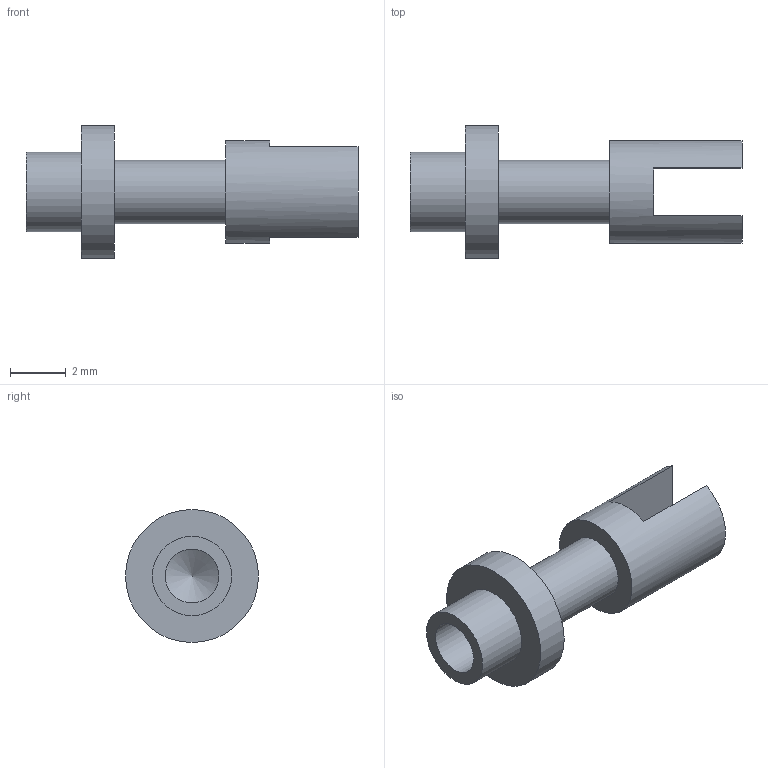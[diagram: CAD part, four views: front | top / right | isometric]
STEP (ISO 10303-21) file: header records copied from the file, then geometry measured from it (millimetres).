
FILE_DESCRIPTION(/* description */ (''),/* implementation_level */ '2;1');
FILE_NAME(/* name */ 'Z:\STEP folder\140-1025-01.ipt.stp',/* time_stamp */ '2016-12-07T10:38:35+00:00',/* author */ ('Paul Karlsons'),/* organization */ (''),/* preprocessor_version */ 'ST-DEVELOPER v15.2',/* originating_system */ 'Autodesk Inventor 2014',/* authorisation */ '');
FILE_SCHEMA (('AUTOMOTIVE_DESIGN { 1 0 10303 214 3 1 1 }'));
Length unit declared in the file: millimetre
Products named in the file (1): 140-1025-01
Bounding box: 11.91 x 4.78 x 4.78 mm (x, y, z)
Volume: 75.9 mm3; surface area: 188.3 mm2
Topology: 1 solids, 1 shells, 15 faces, 29 edges, 19 vertices
Faces by surface type: plane 9, cylinder 5, cone 1
Full cylindrical faces by diameter (mm): 1.93 x1, 2.286 x1, 2.845 x1, 3.683 x1, 4.775 x1
Entity records: 361 total; most frequent: DIRECTION 66, CARTESIAN_POINT 54, ORIENTED_EDGE 42, AXIS2_PLACEMENT_3D 29, EDGE_LOOP 24, EDGE_CURVE 21, VERTEX_POINT 17, ADVANCED_FACE 15
